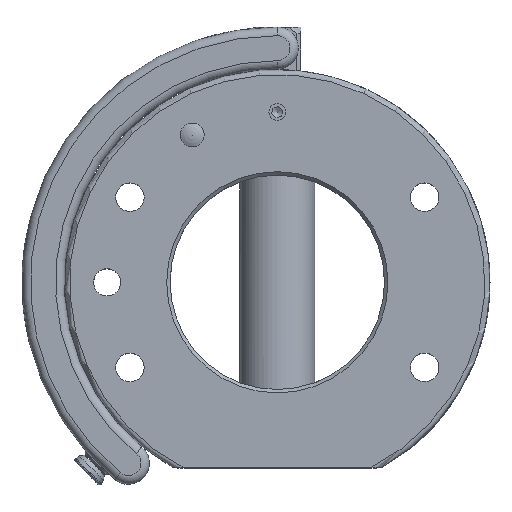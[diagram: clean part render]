
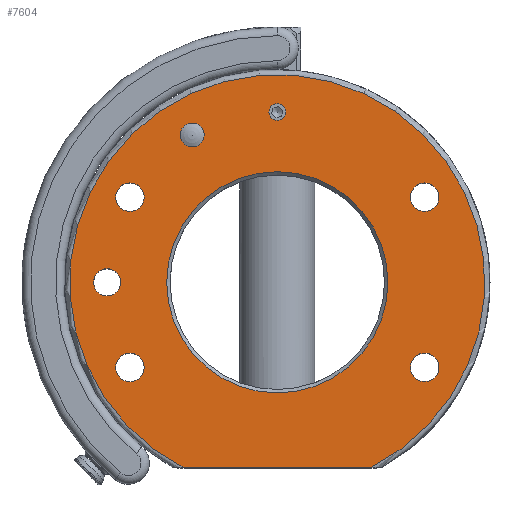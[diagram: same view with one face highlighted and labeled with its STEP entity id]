
A CAD part, top view. The second image highlights one B-rep face of the part: STEP entity #7604.
In plain terms, the highlighted planar face has unit normal (0, 0, 1).
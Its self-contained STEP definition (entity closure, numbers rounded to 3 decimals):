
#158=FACE_BOUND('',#1359,.T.);
#159=FACE_BOUND('',#1360,.T.);
#160=FACE_BOUND('',#1361,.T.);
#161=FACE_BOUND('',#1362,.T.);
#162=FACE_BOUND('',#1363,.T.);
#163=FACE_BOUND('',#1364,.T.);
#164=FACE_BOUND('',#1365,.T.);
#165=FACE_BOUND('',#1366,.T.);
#687=PLANE('',#8139);
#907=FACE_OUTER_BOUND('',#1358,.T.);
#1358=EDGE_LOOP('',(#5369,#5370));
#1359=EDGE_LOOP('',(#5371));
#1360=EDGE_LOOP('',(#5372));
#1361=EDGE_LOOP('',(#5373));
#1362=EDGE_LOOP('',(#5374));
#1363=EDGE_LOOP('',(#5375));
#1364=EDGE_LOOP('',(#5376));
#1365=EDGE_LOOP('',(#5377));
#1366=EDGE_LOOP('',(#5378));
#1878=LINE('',#11722,#2407);
#2407=VECTOR('',#8986,10.);
#2922=CIRCLE('',#8130,4.);
#2924=CIRCLE('',#8133,32.5);
#2928=CIRCLE('',#8140,61.);
#2929=CIRCLE('',#8141,3.5);
#2930=CIRCLE('',#8142,4.188);
#2931=CIRCLE('',#8143,4.188);
#2932=CIRCLE('',#8144,4.188);
#2933=CIRCLE('',#8145,4.188);
#2934=CIRCLE('',#8146,2.459);
#3248=VERTEX_POINT('',#11629);
#3250=VERTEX_POINT('',#11635);
#3256=VERTEX_POINT('',#11719);
#3257=VERTEX_POINT('',#11720);
#3258=VERTEX_POINT('',#11723);
#3259=VERTEX_POINT('',#11725);
#3260=VERTEX_POINT('',#11727);
#3261=VERTEX_POINT('',#11729);
#3262=VERTEX_POINT('',#11731);
#3263=VERTEX_POINT('',#11733);
#4056=EDGE_CURVE('',#3248,#3248,#2922,.T.);
#4059=EDGE_CURVE('',#3250,#3250,#2924,.T.);
#4068=EDGE_CURVE('',#3256,#3257,#2928,.T.);
#4069=EDGE_CURVE('',#3256,#3257,#1878,.T.);
#4070=EDGE_CURVE('',#3258,#3258,#2929,.T.);
#4071=EDGE_CURVE('',#3259,#3259,#2930,.T.);
#4072=EDGE_CURVE('',#3260,#3260,#2931,.T.);
#4073=EDGE_CURVE('',#3261,#3261,#2932,.T.);
#4074=EDGE_CURVE('',#3262,#3262,#2933,.T.);
#4075=EDGE_CURVE('',#3263,#3263,#2934,.T.);
#5369=ORIENTED_EDGE('',*,*,#4068,.F.);
#5370=ORIENTED_EDGE('',*,*,#4069,.T.);
#5371=ORIENTED_EDGE('',*,*,#4070,.T.);
#5372=ORIENTED_EDGE('',*,*,#4071,.T.);
#5373=ORIENTED_EDGE('',*,*,#4072,.T.);
#5374=ORIENTED_EDGE('',*,*,#4073,.T.);
#5375=ORIENTED_EDGE('',*,*,#4074,.T.);
#5376=ORIENTED_EDGE('',*,*,#4059,.F.);
#5377=ORIENTED_EDGE('',*,*,#4075,.T.);
#5378=ORIENTED_EDGE('',*,*,#4056,.T.);
#7604=ADVANCED_FACE('',(#907,#158,#159,#160,#161,#162,#163,#164,#165),#687,
 .T.);
#8130=AXIS2_PLACEMENT_3D('',#11630,#8960,#8961);
#8133=AXIS2_PLACEMENT_3D('',#11636,#8967,#8968);
#8139=AXIS2_PLACEMENT_3D('',#11718,#8982,#8983);
#8140=AXIS2_PLACEMENT_3D('',#11721,#8984,#8985);
#8141=AXIS2_PLACEMENT_3D('',#11724,#8987,#8988);
#8142=AXIS2_PLACEMENT_3D('',#11726,#8989,#8990);
#8143=AXIS2_PLACEMENT_3D('',#11728,#8991,#8992);
#8144=AXIS2_PLACEMENT_3D('',#11730,#8993,#8994);
#8145=AXIS2_PLACEMENT_3D('',#11732,#8995,#8996);
#8146=AXIS2_PLACEMENT_3D('',#11734,#8997,#8998);
#8960=DIRECTION('center_axis',(0.,0.,-1.));
#8961=DIRECTION('ref_axis',(1.,0.,0.));
#8967=DIRECTION('center_axis',(0.,0.,1.));
#8968=DIRECTION('ref_axis',(-1.,0.,0.));
#8982=DIRECTION('center_axis',(0.,0.,1.));
#8983=DIRECTION('ref_axis',(1.,0.,0.));
#8984=DIRECTION('center_axis',(0.,0.,-1.));
#8985=DIRECTION('ref_axis',(0.,1.,0.));
#8986=DIRECTION('',(1.,0.,0.));
#8987=DIRECTION('center_axis',(0.,0.,-1.));
#8988=DIRECTION('ref_axis',(-1.,0.,0.));
#8989=DIRECTION('center_axis',(0.,0.,-1.));
#8990=DIRECTION('ref_axis',(-1.,0.,0.));
#8991=DIRECTION('center_axis',(0.,0.,-1.));
#8992=DIRECTION('ref_axis',(-1.,0.,0.));
#8993=DIRECTION('center_axis',(0.,0.,-1.));
#8994=DIRECTION('ref_axis',(-1.,0.,0.));
#8995=DIRECTION('center_axis',(0.,0.,-1.));
#8996=DIRECTION('ref_axis',(-1.,0.,0.));
#8997=DIRECTION('center_axis',(0.,0.,-1.));
#8998=DIRECTION('ref_axis',(1.,0.,0.));
#11629=CARTESIAN_POINT('',(-54.,0.,38.));
#11630=CARTESIAN_POINT('Origin',(-50.,0.,38.));
#11635=CARTESIAN_POINT('',(32.5,0.,38.));
#11636=CARTESIAN_POINT('Origin',(0.,0.,38.));
#11718=CARTESIAN_POINT('Origin',(0.,0.,38.));
#11719=CARTESIAN_POINT('',(-27.4,-54.5,38.));
#11720=CARTESIAN_POINT('',(27.4,-54.5,38.));
#11721=CARTESIAN_POINT('Origin',(0.,0.,38.));
#11722=CARTESIAN_POINT('',(-15.297,-54.5,38.));
#11723=CARTESIAN_POINT('',(-21.5,43.301,38.));
#11724=CARTESIAN_POINT('Origin',(-25.,43.301,38.));
#11725=CARTESIAN_POINT('',(47.489,-25.,38.));
#11726=CARTESIAN_POINT('Origin',(43.301,-25.,38.));
#11727=CARTESIAN_POINT('',(-39.113,25.,38.));
#11728=CARTESIAN_POINT('Origin',(-43.301,25.,38.));
#11729=CARTESIAN_POINT('',(-39.113,-25.,38.));
#11730=CARTESIAN_POINT('Origin',(-43.301,-25.,38.));
#11731=CARTESIAN_POINT('',(47.489,25.,38.));
#11732=CARTESIAN_POINT('Origin',(43.301,25.,38.));
#11733=CARTESIAN_POINT('',(-2.459,50.,38.));
#11734=CARTESIAN_POINT('Origin',(0.,50.,38.));
